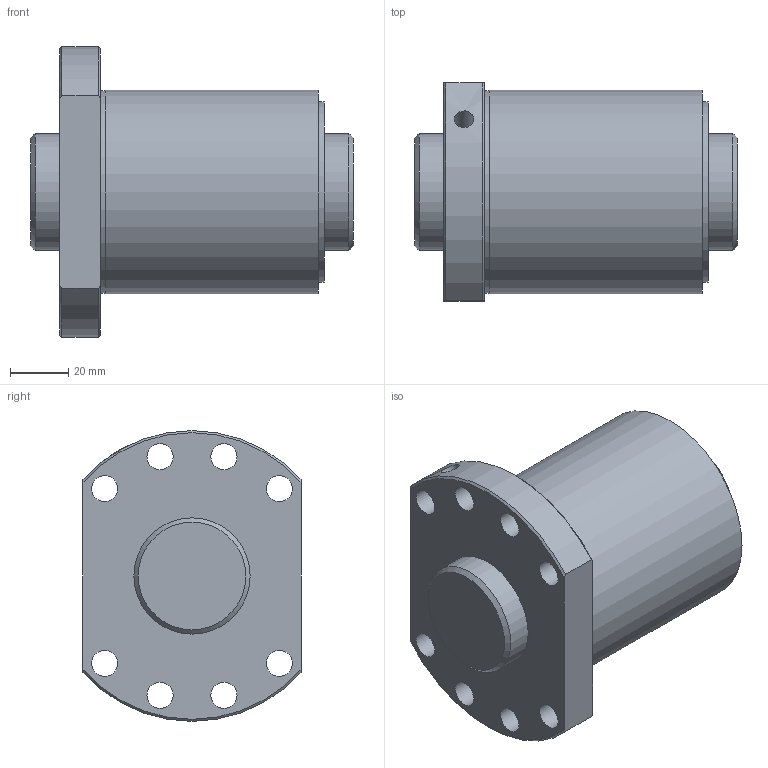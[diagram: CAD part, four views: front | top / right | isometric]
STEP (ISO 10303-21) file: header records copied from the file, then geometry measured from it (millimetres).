
FILE_DESCRIPTION(/* description */ ('STEP AP203'),/* implementation_level */ '2;1');
FILE_NAME(/* name */ 'SDA4016VA-5G0+111LC0(0G000)',/* time_stamp */ '2024-05-28T11:42:22+02:00',/* author */ ('License CC BY-ND 4.0'),/* organization */ ('CADENAS'),/* preprocessor_version */ 'ST-DEVELOPER v19.3',/* originating_system */ 'PARTsolutions',/* authorisation */ ' ');
FILE_SCHEMA (('CONFIG_CONTROL_DESIGN'));
Length unit declared in the file: millimetre
Products named in the file (3): SDA4016VA-5G0+111LC0(0G000); 000SDA4016VA-50Shaft; SDA-V serieSDA4016VA-5nut
Assembly tree (2 placements, depth 2):
  SDA4016VA-5G0+111LC0(0G000)
    000SDA4016VA-50Shaft
    SDA-V serieSDA4016VA-5nut
Bounding box: 111 x 75 x 100 mm (x, y, z)
Volume: 405427.7 mm3; surface area: 62334.9 mm2
Topology: 2 solids, 2 shells, 33 faces, 75 edges, 49 vertices
Faces by surface type: cylinder 17, plane 9, cone 7
Full cylindrical faces by diameter (mm): 5.2 x1, 6.647 x1, 9 x8, 40 x2, 62 x1, 69.6 x1, 70 x1
Entity records: 983 total; most frequent: CARTESIAN_POINT 184, DIRECTION 156, ORIENTED_EDGE 112, EDGE_LOOP 74, FACE_BOUND 74, AXIS2_PLACEMENT_3D 74, EDGE_CURVE 56, VERTEX_POINT 48
